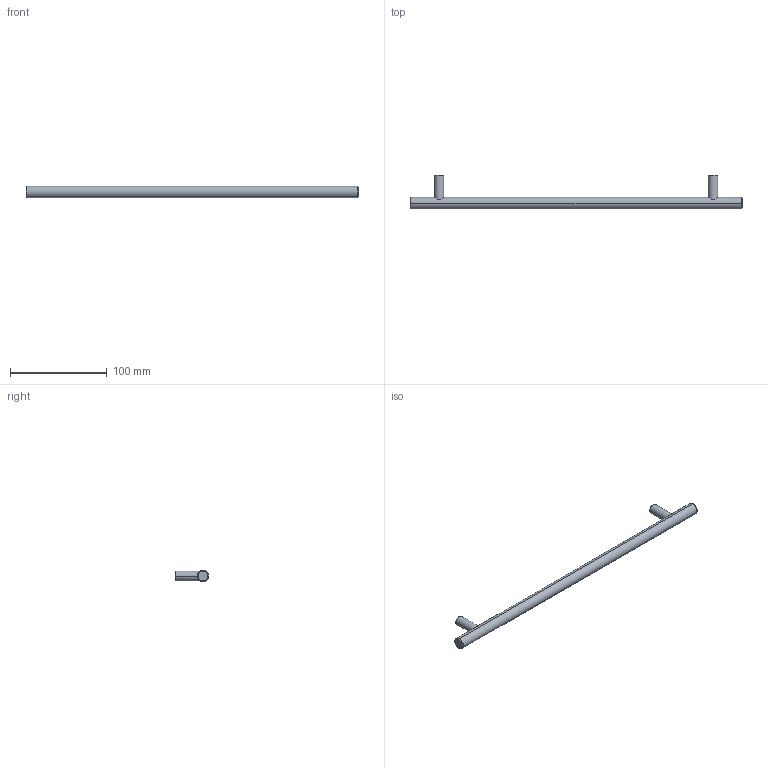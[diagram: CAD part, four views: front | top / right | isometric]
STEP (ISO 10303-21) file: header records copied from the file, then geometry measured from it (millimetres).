
FILE_DESCRIPTION( ( '' ), '1' );
FILE_NAME( 'C:/Documents and Settings/Sachin/Desktop/Sheet 10_1/stp/9070734.stp', '2013-10-22T12:33:49', ( '' ), ( '' ), ' ', ' ', ' ' );
FILE_SCHEMA( ( 'CONFIG_CONTROL_DESIGN' ) );
Length unit declared in the file: millimetre
Products named in the file (1): 1
Bounding box: 344 x 35 x 12 mm (x, y, z)
Volume: 42392.9 mm3; surface area: 14866.3 mm2
Topology: 1 solids, 1 shells, 20 faces, 44 edges, 30 vertices
Faces by surface type: cylinder 10, plane 6, torus 4
Entity records: 738 total; most frequent: CARTESIAN_POINT 229, DIRECTION 108, ORIENTED_EDGE 88, AXIS2_PLACEMENT_3D 49, EDGE_CURVE 44, VERTEX_POINT 30, CIRCLE 28, EDGE_LOOP 24
